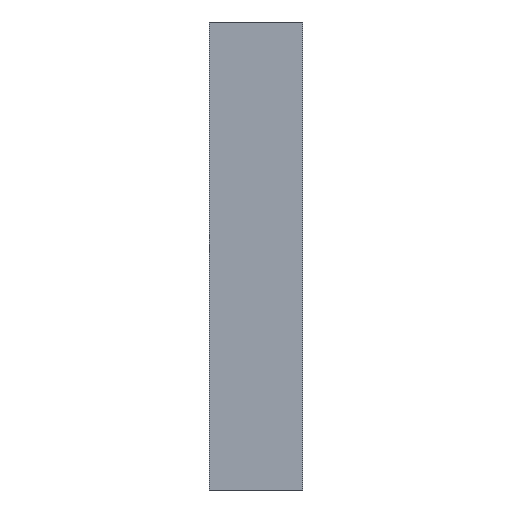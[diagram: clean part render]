
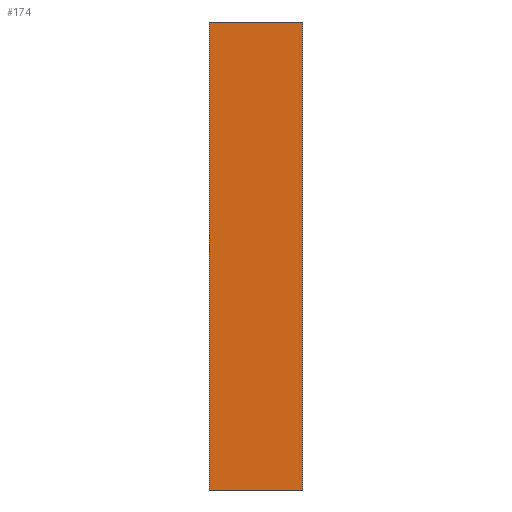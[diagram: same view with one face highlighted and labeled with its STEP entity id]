
A CAD part, left-side view. The second image highlights one B-rep face of the part: STEP entity #174.
In plain terms, the highlighted planar face has unit normal (-1, 0, 0).
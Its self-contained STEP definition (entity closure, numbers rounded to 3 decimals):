
#6 = CARTESIAN_POINT ( 'NONE',  ( -300., -2., 10. ) ) ;
#7 = AXIS2_PLACEMENT_3D ( 'NONE', #9, #81, #131 ) ;
#9 = CARTESIAN_POINT ( 'NONE',  ( -300., 2., 10. ) ) ;
#23 = VERTEX_POINT ( 'NONE', #178 ) ;
#24 = EDGE_LOOP ( 'NONE', ( #110, #218, #160, #90 ) ) ;
#26 = CARTESIAN_POINT ( 'NONE',  ( -300., 2., 10. ) ) ;
#31 = CARTESIAN_POINT ( 'NONE',  ( -300., 2., -10. ) ) ;
#39 = CARTESIAN_POINT ( 'NONE',  ( -300., -2., -10. ) ) ;
#43 = LINE ( 'NONE', #31, #136 ) ;
#54 = DIRECTION ( 'NONE',  ( 0., 0., 1. ) ) ;
#58 = CARTESIAN_POINT ( 'NONE',  ( -300., 2., 10. ) ) ;
#59 = VECTOR ( 'NONE', #127, 1000. ) ;
#72 = DIRECTION ( 'NONE',  ( 0., 0., 1. ) ) ;
#74 = EDGE_CURVE ( 'NONE', #23, #164, #185, .T. ) ;
#75 = CARTESIAN_POINT ( 'NONE',  ( -300., -2., 10. ) ) ;
#81 = DIRECTION ( 'NONE',  ( 1., 0., 0. ) ) ;
#86 = VERTEX_POINT ( 'NONE', #75 ) ;
#88 = VECTOR ( 'NONE', #54, 1000. ) ;
#90 = ORIENTED_EDGE ( 'NONE', *, *, #177, .T. ) ;
#103 = VECTOR ( 'NONE', #72, 1000. ) ;
#110 = ORIENTED_EDGE ( 'NONE', *, *, #116, .T. ) ;
#112 = VERTEX_POINT ( 'NONE', #39 ) ;
#116 = EDGE_CURVE ( 'NONE', #112, #86, #180, .T. ) ;
#117 = LINE ( 'NONE', #58, #59 ) ;
#127 = DIRECTION ( 'NONE',  ( 0., -1., 0. ) ) ;
#130 = CARTESIAN_POINT ( 'NONE',  ( -300., 2., 10. ) ) ;
#131 = DIRECTION ( 'NONE',  ( 0., 0., -1. ) ) ;
#136 = VECTOR ( 'NONE', #209, 1000. ) ;
#160 = ORIENTED_EDGE ( 'NONE', *, *, #74, .F. ) ;
#164 = VERTEX_POINT ( 'NONE', #130 ) ;
#166 = FACE_OUTER_BOUND ( 'NONE', #24, .T. ) ;
#174 = ADVANCED_FACE ( 'NONE', ( #166 ), #206, .F. ) ;
#177 = EDGE_CURVE ( 'NONE', #23, #112, #43, .T. ) ;
#178 = CARTESIAN_POINT ( 'NONE',  ( -300., 2., -10. ) ) ;
#180 = LINE ( 'NONE', #6, #103 ) ;
#185 = LINE ( 'NONE', #26, #88 ) ;
#206 = PLANE ( 'NONE',  #7 ) ;
#209 = DIRECTION ( 'NONE',  ( 0., -1., 0. ) ) ;
#218 = ORIENTED_EDGE ( 'NONE', *, *, #235, .F. ) ;
#235 = EDGE_CURVE ( 'NONE', #164, #86, #117, .T. ) ;
